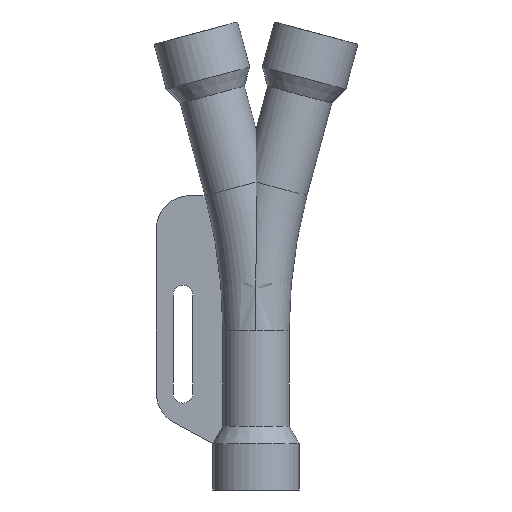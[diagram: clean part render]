
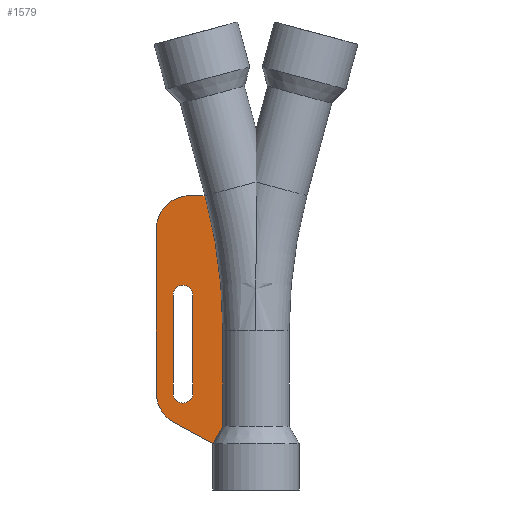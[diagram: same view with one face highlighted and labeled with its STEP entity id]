
A CAD part, front view. The second image highlights one B-rep face of the part: STEP entity #1579.
In plain terms, the highlighted planar face has unit normal (0, -1, 0).
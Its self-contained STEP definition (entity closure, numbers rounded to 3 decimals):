
#53=FACE_BOUND('',#274,.T.);
#96=PLANE('',#1717);
#171=FACE_OUTER_BOUND('',#273,.T.);
#273=EDGE_LOOP('',(#1299,#1300,#1301,#1302,#1303,#1304,#1305,#1306));
#274=EDGE_LOOP('',(#1307,#1308,#1309,#1310));
#427=LINE('',#2524,#584);
#430=LINE('',#2531,#587);
#433=LINE('',#2540,#590);
#436=LINE('',#2548,#593);
#439=LINE('',#2553,#596);
#440=LINE('',#2556,#597);
#441=LINE('',#2558,#598);
#584=VECTOR('',#2032,10.);
#587=VECTOR('',#2041,10.);
#590=VECTOR('',#2050,10.);
#593=VECTOR('',#2059,10.);
#596=VECTOR('',#2064,10.);
#597=VECTOR('',#2067,10.);
#598=VECTOR('',#2068,10.);
#663=CIRCLE('',#1705,1.5);
#664=CIRCLE('',#1708,1.5);
#665=CIRCLE('',#1711,5.);
#666=CIRCLE('',#1714,5.);
#667=CIRCLE('',#1718,78.553);
#782=VERTEX_POINT('',#2517);
#783=VERTEX_POINT('',#2519);
#784=VERTEX_POINT('',#2523);
#785=VERTEX_POINT('',#2527);
#786=VERTEX_POINT('',#2533);
#787=VERTEX_POINT('',#2535);
#788=VERTEX_POINT('',#2539);
#789=VERTEX_POINT('',#2543);
#790=VERTEX_POINT('',#2547);
#791=VERTEX_POINT('',#2551);
#792=VERTEX_POINT('',#2555);
#793=VERTEX_POINT('',#2557);
#958=EDGE_CURVE('',#783,#782,#663,.T.);
#960=EDGE_CURVE('',#784,#783,#427,.T.);
#962=EDGE_CURVE('',#785,#784,#664,.T.);
#964=EDGE_CURVE('',#782,#785,#430,.T.);
#966=EDGE_CURVE('',#787,#786,#665,.T.);
#968=EDGE_CURVE('',#788,#787,#433,.T.);
#970=EDGE_CURVE('',#789,#788,#666,.T.);
#972=EDGE_CURVE('',#790,#789,#436,.T.);
#975=EDGE_CURVE('',#786,#791,#439,.T.);
#976=EDGE_CURVE('',#792,#791,#440,.T.);
#977=EDGE_CURVE('',#793,#792,#441,.T.);
#978=EDGE_CURVE('',#790,#793,#667,.T.);
#1299=ORIENTED_EDGE('',*,*,#975,.T.);
#1300=ORIENTED_EDGE('',*,*,#976,.F.);
#1301=ORIENTED_EDGE('',*,*,#977,.F.);
#1302=ORIENTED_EDGE('',*,*,#978,.F.);
#1303=ORIENTED_EDGE('',*,*,#972,.T.);
#1304=ORIENTED_EDGE('',*,*,#970,.T.);
#1305=ORIENTED_EDGE('',*,*,#968,.T.);
#1306=ORIENTED_EDGE('',*,*,#966,.T.);
#1307=ORIENTED_EDGE('',*,*,#964,.T.);
#1308=ORIENTED_EDGE('',*,*,#962,.T.);
#1309=ORIENTED_EDGE('',*,*,#960,.T.);
#1310=ORIENTED_EDGE('',*,*,#958,.T.);
#1579=ADVANCED_FACE('',(#171,#53),#96,.F.);
#1705=AXIS2_PLACEMENT_3D('',#2520,#2027,#2028);
#1708=AXIS2_PLACEMENT_3D('',#2528,#2036,#2037);
#1711=AXIS2_PLACEMENT_3D('',#2536,#2045,#2046);
#1714=AXIS2_PLACEMENT_3D('',#2544,#2054,#2055);
#1717=AXIS2_PLACEMENT_3D('',#2554,#2065,#2066);
#1718=AXIS2_PLACEMENT_3D('',#2559,#2069,#2070);
#2027=DIRECTION('center_axis',(0.,1.,0.));
#2028=DIRECTION('ref_axis',(-1.,0.,0.));
#2032=DIRECTION('',(0.,0.,1.));
#2036=DIRECTION('center_axis',(0.,1.,0.));
#2037=DIRECTION('ref_axis',(1.,0.,0.));
#2041=DIRECTION('',(0.,0.,-1.));
#2045=DIRECTION('center_axis',(0.,-1.,0.));
#2046=DIRECTION('ref_axis',(0.,0.,
-1.));
#2050=DIRECTION('',(0.,0.,-1.));
#2054=DIRECTION('center_axis',(0.,-1.,0.));
#2055=DIRECTION('ref_axis',(-1.,0.,0.));
#2059=DIRECTION('',(-1.,0.,0.));
#2064=DIRECTION('',(0.878,0.,-0.478));
#2065=DIRECTION('center_axis',(0.,1.,0.));
#2066=DIRECTION('ref_axis',(-1.,0.,0.));
#2067=DIRECTION('',(-0.5,0.,-0.866));
#2068=DIRECTION('',(0.,0.,-1.));
#2069=DIRECTION('center_axis',(0.,1.,0.));
#2070=DIRECTION('ref_axis',(0.966,0.,0.259));
#2517=CARTESIAN_POINT('',(-9.5,3.3,22.331));
#2519=CARTESIAN_POINT('',(-12.5,3.3,22.331));
#2520=CARTESIAN_POINT('Origin',(-11.,3.3,22.331));
#2523=CARTESIAN_POINT('',(-12.5,3.3,7.598));
#2524=CARTESIAN_POINT('',(-12.5,3.3,7.598));
#2527=CARTESIAN_POINT('',(-9.5,3.3,7.598));
#2528=CARTESIAN_POINT('Origin',(-11.,3.3,7.598));
#2531=CARTESIAN_POINT('',(-9.5,3.3,22.331));
#2533=CARTESIAN_POINT('',(-12.391,3.3,3.207));
#2535=CARTESIAN_POINT('',(-15.,3.3,7.598));
#2536=CARTESIAN_POINT('Origin',(-10.,3.3,7.598));
#2539=CARTESIAN_POINT('',(-15.,3.3,32.331));
#2540=CARTESIAN_POINT('',(-15.,3.3,32.331));
#2543=CARTESIAN_POINT('',(-10.,3.3,37.331));
#2544=CARTESIAN_POINT('Origin',(-10.,3.3,32.331));
#2547=CARTESIAN_POINT('',(-7.677,3.3,37.331));
#2548=CARTESIAN_POINT('',(-7.677,3.3,37.331));
#2551=CARTESIAN_POINT('',(-6.5,3.3,0.));
#2553=CARTESIAN_POINT('',(-6.5,3.3,0.));
#2554=CARTESIAN_POINT('Origin',(0.,3.3,28.245));
#2555=CARTESIAN_POINT('',(-5.,3.3,2.598));
#2556=CARTESIAN_POINT('',(1.178,3.3,13.298));
#2557=CARTESIAN_POINT('',(-5.,3.3,17.));
#2558=CARTESIAN_POINT('',(-5.,3.3,15.622));
#2559=CARTESIAN_POINT('Origin',(-83.553,3.3,17.));
